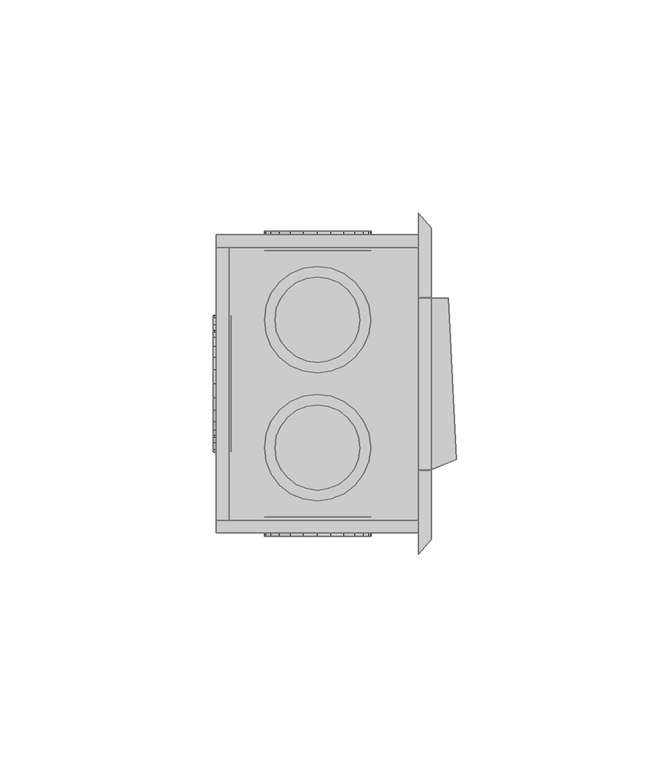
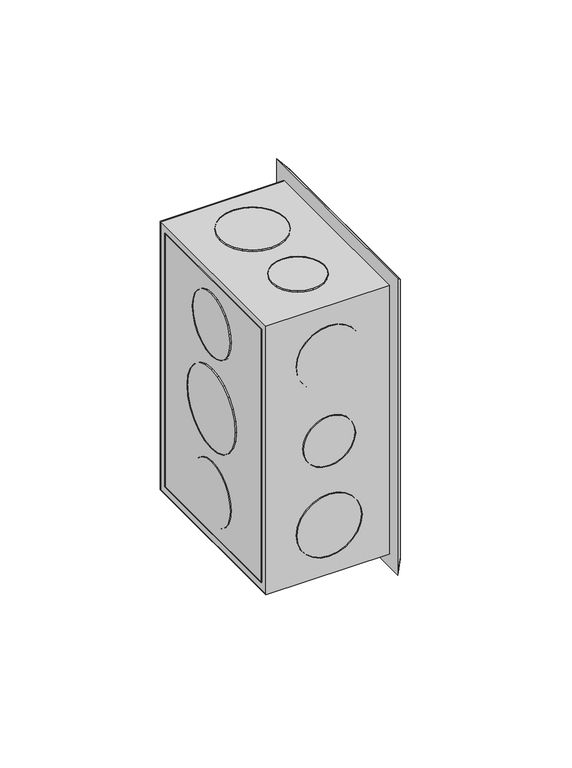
"""IFC4 building model written with IfcOpenShell, lengths in millimetres: proxy geometry,  210927 :  210927."""

from ifc_helpers import new_model, si_unit, origin, place, context, project, spatial, triangles, source, transform, mapped, element, save


def generic_models_ba82d7d4(model_context):
    return source(origin(), model_context, "Body", "Tessellation", [
        triangles([(1323.4000351, 28526.1006592, 1254.3000378), (1323.4000351, 28523.1008423, 1148.7000154), (1323.4000351, 28526.1006592, 1145.6999805), (1323.4000351, 28523.1008423, 1251.2999302), (1323.4000351, 28456.1002808, 1254.3000378), (1323.4000351, 28459.1000977, 1251.2999302), (1323.4000351, 28456.1002808, 1145.6999805), (1323.4000351, 28459.1000977, 1148.7000154), (1275.9000275, 28523.1008423, 1251.2999302), (1275.9000275, 28523.1008423, 1148.7000154), (1275.9000275, 28456.1002808, 1254.3000378), (1275.9000275, 28456.1002808, 1145.6999805), (1275.9000275, 28459.1000977, 1251.2999302), (1275.9000275, 28526.1006592, 1145.6999805), (1275.9000275, 28459.1000977, 1148.7000154), (1275.9000275, 28526.1006592, 1254.3000378), (1278.8999897, 28523.1008423, 1251.2999302), (1278.8999897, 28459.1000977, 1148.7000154), (1278.8999897, 28523.1008423, 1148.7000154), (1278.8999897, 28459.1000977, 1251.2999302), (1279.3999592, 28504.9996216, 1191.9999887), (1279.3999592, 28499.0999817, 1186.0999855), (1279.3999592, 28502.3997803, 1188.6999722), (1279.3999592, 28506.5995239, 1195.8999687), (1279.3999592, 28495.3002136, 1184.5000105), (1279.3999592, 28507.0994934, 1200.0000092), (1279.3999592, 28491.10047, 1183.9999683), (1279.3999592, 28506.5995239, 1204.0999769), (1279.3999592, 28487.0007202, 1184.5000105), (1279.3999592, 28504.9996216, 1208.0000296), (1279.3999592, 28483.1009583, 1186.0999855), (1279.3999592, 28502.3997803, 1211.2999735), (1279.3999592, 28479.8011597, 1188.6999722), (1279.3999592, 28499.0999817, 1213.9000328), (1279.3999592, 28477.2989868, 1191.9999887), (1279.3999592, 28495.3002136, 1215.5000078), (1279.3999592, 28475.6990845, 1195.8999687), (1279.3999592, 28491.10047, 1215.9999773), (1279.3999592, 28475.0991211, 1200.0000092), (1279.3999592, 28487.0007202, 1215.5000078), (1279.3999592, 28475.6990845, 1204.0999769), (1279.3999592, 28483.1009583, 1213.9000328), (1279.3999592, 28477.2989868, 1208.0000296), (1279.3999592, 28479.8011597, 1211.2999735), (1275.2000702, 28487.0007202, 1184.5000105), (1275.2000702, 28491.10047, 1183.9999683), (1275.2000702, 28495.3002136, 1184.5000105), (1275.2000702, 28499.0999817, 1186.0999855), (1275.2000702, 28502.3997803, 1188.6999722), (1275.2000702, 28504.9996216, 1191.9999887), (1275.2000702, 28506.5995239, 1195.8999687), (1275.2000702, 28507.0994934, 1200.0000092), (1275.2000702, 28506.5995239, 1204.0999769), (1275.2000702, 28504.9996216, 1208.0000296), (1275.2000702, 28502.3997803, 1211.2999735), (1275.2000702, 28499.0999817, 1213.9000328), (1275.2000702, 28495.3002136, 1215.5000078), (1275.2000702, 28491.10047, 1215.9999773), (1275.2000702, 28487.0007202, 1215.5000078), (1275.2000702, 28483.1009583, 1213.9000328), (1275.2000702, 28479.8011597, 1211.2999735), (1275.2000702, 28477.2989868, 1208.0000296), (1275.2000702, 28475.6990845, 1204.0999769), (1275.2000702, 28475.0991211, 1200.0000092), (1275.2000702, 28475.6990845, 1195.8999687), (1275.2000702, 28477.2989868, 1191.9999887), (1275.2000702, 28479.8011597, 1188.6999722), (1275.2000702, 28483.1009583, 1186.0999855), (1279.3999592, 28501.9998047, 1227.8000565), (1279.3999592, 28497.4000854, 1223.2000465), (1279.3999592, 28499.9999268, 1225.2000698), (1279.3999592, 28503.1997314, 1230.8000187), (1279.3999592, 28494.4002686, 1221.8999805), (1279.3999592, 28503.599707, 1233.9999687), (1279.3999592, 28491.10047, 1221.500005), (1279.3999592, 28503.1997314, 1237.2000641), (1279.3999592, 28487.9006653, 1221.8999805), (1279.3999592, 28501.9998047, 1240.3000202), (1279.3999592, 28484.9008484, 1223.2000465), (1279.3999592, 28499.9999268, 1242.800013), (1279.3999592, 28482.3010071, 1225.2000698), (1279.3999592, 28480.3011292, 1227.8000565), (1279.3999592, 28497.4000854, 1244.8000362), (1279.3999592, 28494.4002686, 1246.0999569), (1279.3999592, 28479.098877, 1230.8000187), (1279.3999592, 28491.10047, 1246.4999325), (1279.3999592, 28478.5989075, 1233.9999687), (1279.3999592, 28487.9006653, 1246.0999569), (1279.3999592, 28479.098877, 1237.2000641), (1279.3999592, 28480.3011292, 1240.3000202), (1279.3999592, 28484.9008484, 1244.8000362), (1279.3999592, 28482.3010071, 1242.800013), (1275.2000702, 28479.098877, 1230.8000187), (1275.2000702, 28480.3011292, 1227.8000565), (1275.2000702, 28482.3010071, 1225.2000698), (1275.2000702, 28484.9008484, 1223.2000465), (1275.2000702, 28487.9006653, 1221.8999805), (1275.2000702, 28491.10047, 1221.500005), (1275.2000702, 28494.4002686, 1221.8999805), (1275.2000702, 28497.4000854, 1223.2000465), (1275.2000702, 28499.9999268, 1225.2000698), (1275.2000702, 28501.9998047, 1227.8000565), (1275.2000702, 28503.1997314, 1230.8000187), (1275.2000702, 28503.599707, 1233.9999687), (1275.2000702, 28503.1997314, 1237.2000641), (1275.2000702, 28501.9998047, 1240.3000202), (1275.2000702, 28499.9999268, 1242.800013), (1275.2000702, 28497.4000854, 1244.8000362), (1275.2000702, 28494.4002686, 1246.0999569), (1275.2000702, 28491.10047, 1246.4999325), (1275.2000702, 28487.9006653, 1246.0999569), (1275.2000702, 28484.9008484, 1244.8000362), (1275.2000702, 28482.3010071, 1242.800013), (1275.2000702, 28480.3011292, 1240.3000202), (1275.2000702, 28479.098877, 1237.2000641), (1275.2000702, 28478.5989075, 1233.9999687), (1275.2000702, 28497.4000854, 1155.1999821), (1275.2000702, 28501.9998047, 1159.6999981), (1275.2000702, 28499.9999268, 1157.2000053), (1275.2000702, 28494.4002686, 1153.8999887), (1275.2000702, 28503.1997314, 1162.8000269), (1275.2000702, 28491.10047, 1153.5000132), (1275.2000702, 28503.599707, 1165.9999769), (1275.2000702, 28487.9006653, 1153.8999887), (1275.2000702, 28503.1997314, 1169.1999996), (1275.2000702, 28484.9008484, 1155.1999821), (1275.2000702, 28501.9998047, 1172.2000345), (1275.2000702, 28482.3010071, 1157.2000053), (1275.2000702, 28499.9999268, 1174.8000212), (1275.2000702, 28480.3011292, 1159.6999981), (1275.2000702, 28497.4000854, 1176.7999718), (1275.2000702, 28479.098877, 1162.8000269), (1275.2000702, 28494.4002686, 1178.0999651), (1275.2000702, 28491.10047, 1178.5000134), (1275.2000702, 28478.5989075, 1165.9999769), (1275.2000702, 28479.098877, 1169.1999996), (1275.2000702, 28487.9006653, 1178.0999651), (1275.2000702, 28480.3011292, 1172.2000345), (1275.2000702, 28484.9008484, 1176.7999718), (1275.2000702, 28482.3010071, 1174.8000212), (1279.3999592, 28494.4002686, 1178.0999651), (1279.3999592, 28491.10047, 1178.5000134), (1279.3999592, 28497.4000854, 1176.7999718), (1279.3999592, 28499.9999268, 1174.8000212), (1279.3999592, 28501.9998047, 1172.2000345), (1279.3999592, 28503.1997314, 1169.1999996), (1279.3999592, 28503.599707, 1165.9999769), (1279.3999592, 28503.1997314, 1162.8000269), (1279.3999592, 28501.9998047, 1159.6999981), (1279.3999592, 28499.9999268, 1157.2000053), (1279.3999592, 28497.4000854, 1155.1999821), (1279.3999592, 28494.4002686, 1153.8999887), (1279.3999592, 28491.10047, 1153.5000132), (1279.3999592, 28487.9006653, 1153.8999887), (1279.3999592, 28484.9008484, 1155.1999821), (1279.3999592, 28482.3010071, 1157.2000053), (1279.3999592, 28480.3011292, 1159.6999981), (1279.3999592, 28479.098877, 1162.8000269), (1279.3999592, 28478.5989075, 1165.9999769), (1279.3999592, 28479.098877, 1169.1999996), (1279.3999592, 28480.3011292, 1172.2000345), (1279.3999592, 28482.3010071, 1174.8000212), (1279.3999592, 28484.9008484, 1176.7999718), (1279.3999592, 28487.9006653, 1178.0999651), (1294.7000427, 28522.3008911, 1191.3000315), (1290.9999779, 28522.3008911, 1195.0000237), (1292.6000256, 28522.3008911, 1192.9000065), (1290.0000389, 28522.3008911, 1197.4000225), (1297.1000416, 28522.3008911, 1190.3000198), (1289.7000572, 28522.3008911, 1200.0000092), (1299.7000282, 28522.3008911, 1189.9999655), (1302.200021, 28522.3008911, 1190.3000198), (1290.0000389, 28522.3008911, 1202.5999958), (1290.9999779, 28522.3008911, 1204.9999947), (1304.7000137, 28522.3008911, 1191.3000315), (1292.6000256, 28522.3008911, 1207.1000118), (1306.700037, 28522.3008911, 1192.9000065), (1308.2999393, 28522.3008911, 1195.0000237), (1294.7000427, 28522.3008911, 1208.6999868), (1309.3000237, 28522.3008911, 1197.4000225), (1297.1000416, 28522.3008911, 1209.6999985), (1309.6999992, 28522.3008911, 1200.0000092), (1299.7000282, 28522.3008911, 1209.9999802), (1309.3000237, 28522.3008911, 1202.5999958), (1302.200021, 28522.3008911, 1209.6999985), (1304.7000137, 28522.3008911, 1208.6999868), (1308.2999393, 28522.3008911, 1204.9999947), (1306.700037, 28522.3008911, 1207.1000118), (1299.7000282, 28526.9006104, 1189.9999655), (1297.1000416, 28526.9006104, 1190.3000198), (1302.200021, 28526.9006104, 1190.3000198), (1304.7000137, 28526.9006104, 1191.3000315), (1306.700037, 28526.9006104, 1192.9000065), (1308.2999393, 28526.9006104, 1195.0000237), (1309.3000237, 28526.9006104, 1197.4000225), (1309.6999992, 28526.9006104, 1200.0000092), (1309.3000237, 28526.9006104, 1202.5999958), (1308.2999393, 28526.9006104, 1204.9999947), (1306.700037, 28526.9006104, 1207.1000118), (1304.7000137, 28526.9006104, 1208.6999868), (1302.200021, 28526.9006104, 1209.6999985), (1299.7000282, 28526.9006104, 1209.9999802), (1297.1000416, 28526.9006104, 1209.6999985), (1294.7000427, 28526.9006104, 1208.6999868), (1292.6000256, 28526.9006104, 1207.1000118), (1290.9999779, 28526.9006104, 1204.9999947), (1290.0000389, 28526.9006104, 1202.5999958), (1289.7000572, 28526.9006104, 1200.0000092), (1290.0000389, 28526.9006104, 1197.4000225), (1290.9999779, 28526.9006104, 1195.0000237), (1292.6000256, 28526.9006104, 1192.9000065), (1294.7000427, 28526.9006104, 1191.3000315), (1293.3999767, 28522.3008911, 1223.2000465), (1288.7999668, 28522.3008911, 1227.8000565), (1290.7999901, 28522.3008911, 1225.2000698), (1296.399939, 28522.3008911, 1221.8999805), (1287.6000401, 28522.3008911, 1230.8000187), (1287.2000645, 28522.3008911, 1233.9999687), (1299.7000282, 28522.3008911, 1221.500005), (1302.8999783, 28522.3008911, 1221.8999805), (1287.6000401, 28522.3008911, 1237.2000641), (1288.7999668, 28522.3008911, 1240.3000202), (1305.8999405, 28522.3008911, 1223.2000465), (1308.5000725, 28522.3008911, 1225.2000698), (1290.7999901, 28522.3008911, 1242.800013), (1310.4999504, 28522.3008911, 1227.8000565), (1293.3999767, 28522.3008911, 1244.8000362), (1311.7000225, 28522.3008911, 1230.8000187), (1296.399939, 28522.3008911, 1246.0999569), (1312.199992, 28522.3008911, 1233.9999687), (1299.7000282, 28522.3008911, 1246.4999325), (1311.7000225, 28522.3008911, 1237.2000641), (1302.8999783, 28522.3008911, 1246.0999569), (1310.4999504, 28522.3008911, 1240.3000202), (1305.8999405, 28522.3008911, 1244.8000362), (1308.5000725, 28522.3008911, 1242.800013), (1299.7000282, 28526.9006104, 1221.500005), (1296.399939, 28526.9006104, 1221.8999805), (1302.8999783, 28526.9006104, 1221.8999805), (1305.8999405, 28526.9006104, 1223.2000465), (1308.5000725, 28526.9006104, 1225.2000698), (1310.4999504, 28526.9006104, 1227.8000565), (1311.7000225, 28526.9006104, 1230.8000187), (1312.199992, 28526.9006104, 1233.9999687), (1311.7000225, 28526.9006104, 1237.2000641), (1310.4999504, 28526.9006104, 1240.3000202), (1308.5000725, 28526.9006104, 1242.800013), (1305.8999405, 28526.9006104, 1244.8000362), (1302.8999783, 28526.9006104, 1246.0999569), (1299.7000282, 28526.9006104, 1246.4999325), (1296.399939, 28526.9006104, 1246.0999569), (1293.3999767, 28526.9006104, 1244.8000362), (1290.7999901, 28526.9006104, 1242.800013), (1288.7999668, 28526.9006104, 1240.3000202), (1287.6000401, 28526.9006104, 1237.2000641), (1287.2000645, 28526.9006104, 1233.9999687), (1287.6000401, 28526.9006104, 1230.8000187), (1288.7999668, 28526.9006104, 1227.8000565), (1290.7999901, 28526.9006104, 1225.2000698), (1293.3999767, 28526.9006104, 1223.2000465), (1288.7999668, 28526.9006104, 1159.6999981), (1293.3999767, 28526.9006104, 1155.1999821), (1290.7999901, 28526.9006104, 1157.2000053), (1287.6000401, 28526.9006104, 1162.8000269), (1296.399939, 28526.9006104, 1153.8999887), (1287.2000645, 28526.9006104, 1165.9999769), (1299.7000282, 28526.9006104, 1153.5000132), (1287.6000401, 28526.9006104, 1169.1999996), (1302.8999783, 28526.9006104, 1153.8999887), (1288.7999668, 28526.9006104, 1172.2000345), (1305.8999405, 28526.9006104, 1155.1999821), (1290.7999901, 28526.9006104, 1174.8000212), (1308.5000725, 28526.9006104, 1157.2000053), (1293.3999767, 28526.9006104, 1176.7999718), (1310.4999504, 28526.9006104, 1159.6999981), (1296.399939, 28526.9006104, 1178.0999651), (1311.7000225, 28526.9006104, 1162.8000269), (1299.7000282, 28526.9006104, 1178.5000134), (1312.199992, 28526.9006104, 1165.9999769), (1302.8999783, 28526.9006104, 1178.0999651), (1311.7000225, 28526.9006104, 1169.1999996), (1305.8999405, 28526.9006104, 1176.7999718), (1310.4999504, 28526.9006104, 1172.2000345), (1308.5000725, 28526.9006104, 1174.8000212), (1296.399939, 28522.3008911, 1178.0999651), (1299.7000282, 28522.3008911, 1178.5000134), (1302.8999783, 28522.3008911, 1178.0999651), (1305.8999405, 28522.3008911, 1176.7999718), (1308.5000725, 28522.3008911, 1174.8000212), (1310.4999504, 28522.3008911, 1172.2000345), (1311.7000225, 28522.3008911, 1169.1999996), (1312.199992, 28522.3008911, 1165.9999769), (1311.7000225, 28522.3008911, 1162.8000269), (1310.4999504, 28522.3008911, 1159.6999981), (1308.5000725, 28522.3008911, 1157.2000053), (1305.8999405, 28522.3008911, 1155.1999821), (1302.8999783, 28522.3008911, 1153.8999887), (1299.7000282, 28522.3008911, 1153.5000132), (1296.399939, 28522.3008911, 1153.8999887), (1293.3999767, 28522.3008911, 1155.1999821), (1290.7999901, 28522.3008911, 1157.2000053), (1288.7999668, 28522.3008911, 1159.6999981), (1287.6000401, 28522.3008911, 1162.8000269), (1287.2000645, 28522.3008911, 1165.9999769), (1287.6000401, 28522.3008911, 1169.1999996), (1288.7999668, 28522.3008911, 1172.2000345), (1290.7999901, 28522.3008911, 1174.8000212), (1293.3999767, 28522.3008911, 1176.7999718), (1290.9999779, 28459.9000488, 1195.0000237), (1294.7000427, 28459.9000488, 1191.3000315), (1292.6000256, 28459.9000488, 1192.9000065), (1290.0000389, 28459.9000488, 1197.4000225), (1297.1000416, 28459.9000488, 1190.3000198), (1289.7000572, 28459.9000488, 1200.0000092), (1299.7000282, 28459.9000488, 1189.9999655), (1290.0000389, 28459.9000488, 1202.5999958), (1302.200021, 28459.9000488, 1190.3000198), (1290.9999779, 28459.9000488, 1204.9999947), (1304.7000137, 28459.9000488, 1191.3000315), (1292.6000256, 28459.9000488, 1207.1000118), (1306.700037, 28459.9000488, 1192.9000065), (1294.7000427, 28459.9000488, 1208.6999868), (1308.2999393, 28459.9000488, 1195.0000237), (1297.1000416, 28459.9000488, 1209.6999985), (1309.3000237, 28459.9000488, 1197.4000225), (1309.6999992, 28459.9000488, 1200.0000092), (1299.7000282, 28459.9000488, 1209.9999802), (1302.200021, 28459.9000488, 1209.6999985), (1309.3000237, 28459.9000488, 1202.5999958), (1304.7000137, 28459.9000488, 1208.6999868), (1308.2999393, 28459.9000488, 1204.9999947), (1306.700037, 28459.9000488, 1207.1000118), (1297.1000416, 28455.3003296, 1209.6999985), (1299.7000282, 28455.3003296, 1209.9999802), (1302.200021, 28455.3003296, 1209.6999985), (1304.7000137, 28455.3003296, 1208.6999868), (1306.700037, 28455.3003296, 1207.1000118), (1308.2999393, 28455.3003296, 1204.9999947), (1309.3000237, 28455.3003296, 1202.5999958), (1309.6999992, 28455.3003296, 1200.0000092), (1309.3000237, 28455.3003296, 1197.4000225), (1308.2999393, 28455.3003296, 1195.0000237), (1306.700037, 28455.3003296, 1192.9000065), (1304.7000137, 28455.3003296, 1191.3000315), (1302.200021, 28455.3003296, 1190.3000198), (1299.7000282, 28455.3003296, 1189.9999655), (1297.1000416, 28455.3003296, 1190.3000198), (1294.7000427, 28455.3003296, 1191.3000315), (1292.6000256, 28455.3003296, 1192.9000065), (1290.9999779, 28455.3003296, 1195.0000237), (1290.0000389, 28455.3003296, 1197.4000225), (1289.7000572, 28455.3003296, 1200.0000092), (1290.0000389, 28455.3003296, 1202.5999958), (1290.9999779, 28455.3003296, 1204.9999947), (1292.6000256, 28455.3003296, 1207.1000118), (1294.7000427, 28455.3003296, 1208.6999868), (1288.7999668, 28459.9000488, 1159.6999981), (1293.3999767, 28459.9000488, 1155.1999821), (1290.7999901, 28459.9000488, 1157.2000053), (1287.6000401, 28459.9000488, 1162.8000269), (1296.399939, 28459.9000488, 1153.8999887), (1287.2000645, 28459.9000488, 1165.9999769), (1299.7000282, 28459.9000488, 1153.5000132), (1287.6000401, 28459.9000488, 1169.1999996), (1302.8999783, 28459.9000488, 1153.8999887), (1288.7999668, 28459.9000488, 1172.2000345), (1305.8999405, 28459.9000488, 1155.1999821), (1290.7999901, 28459.9000488, 1174.8000212), (1308.5000725, 28459.9000488, 1157.2000053), (1293.3999767, 28459.9000488, 1176.7999718), (1310.4999504, 28459.9000488, 1159.6999981), (1296.399939, 28459.9000488, 1178.0999651), (1311.7000225, 28459.9000488, 1162.8000269), (1299.7000282, 28459.9000488, 1178.5000134), (1312.199992, 28459.9000488, 1165.9999769), (1302.8999783, 28459.9000488, 1178.0999651), (1311.7000225, 28459.9000488, 1169.1999996), (1305.8999405, 28459.9000488, 1176.7999718), (1310.4999504, 28459.9000488, 1172.2000345), (1308.5000725, 28459.9000488, 1174.8000212), (1296.399939, 28455.3003296, 1178.0999651), (1299.7000282, 28455.3003296, 1178.5000134), (1302.8999783, 28455.3003296, 1178.0999651), (1305.8999405, 28455.3003296, 1176.7999718), (1308.5000725, 28455.3003296, 1174.8000212), (1310.4999504, 28455.3003296, 1172.2000345), (1311.7000225, 28455.3003296, 1169.1999996), (1312.199992, 28455.3003296, 1165.9999769), (1311.7000225, 28455.3003296, 1162.8000269), (1310.4999504, 28455.3003296, 1159.6999981), (1308.5000725, 28455.3003296, 1157.2000053), (1305.8999405, 28455.3003296, 1155.1999821), (1302.8999783, 28455.3003296, 1153.8999887), (1299.7000282, 28455.3003296, 1153.5000132), (1296.399939, 28455.3003296, 1153.8999887), (1293.3999767, 28455.3003296, 1155.1999821), (1290.7999901, 28455.3003296, 1157.2000053), (1288.7999668, 28455.3003296, 1159.6999981), (1287.6000401, 28455.3003296, 1162.8000269), (1287.2000645, 28455.3003296, 1165.9999769), (1287.6000401, 28455.3003296, 1169.1999996), (1288.7999668, 28455.3003296, 1172.2000345), (1290.7999901, 28455.3003296, 1174.8000212), (1293.3999767, 28455.3003296, 1176.7999718), (1293.3999767, 28455.3003296, 1223.2000465), (1288.7999668, 28455.3003296, 1227.8000565), (1290.7999901, 28455.3003296, 1225.2000698), (1296.399939, 28455.3003296, 1221.8999805), (1287.6000401, 28455.3003296, 1230.8000187), (1287.2000645, 28455.3003296, 1233.9999687), (1299.7000282, 28455.3003296, 1221.500005), (1302.8999783, 28455.3003296, 1221.8999805), (1287.6000401, 28455.3003296, 1237.2000641), (1288.7999668, 28455.3003296, 1240.3000202), (1305.8999405, 28455.3003296, 1223.2000465), (1308.5000725, 28455.3003296, 1225.2000698), (1290.7999901, 28455.3003296, 1242.800013), (1310.4999504, 28455.3003296, 1227.8000565), (1293.3999767, 28455.3003296, 1244.8000362), (1311.7000225, 28455.3003296, 1230.8000187), (1296.399939, 28455.3003296, 1246.0999569), (1312.199992, 28455.3003296, 1233.9999687), (1299.7000282, 28455.3003296, 1246.4999325), (1311.7000225, 28455.3003296, 1237.2000641), (1302.8999783, 28455.3003296, 1246.0999569), (1310.4999504, 28455.3003296, 1240.3000202), (1305.8999405, 28455.3003296, 1244.8000362), (1308.5000725, 28455.3003296, 1242.800013), (1299.7000282, 28459.9000488, 1221.500005), (1296.399939, 28459.9000488, 1221.8999805), (1302.8999783, 28459.9000488, 1221.8999805), (1305.8999405, 28459.9000488, 1223.2000465), (1308.5000725, 28459.9000488, 1225.2000698), (1310.4999504, 28459.9000488, 1227.8000565), (1311.7000225, 28459.9000488, 1230.8000187), (1312.199992, 28459.9000488, 1233.9999687), (1311.7000225, 28459.9000488, 1237.2000641), (1310.4999504, 28459.9000488, 1240.3000202), (1308.5000725, 28459.9000488, 1242.800013), (1305.8999405, 28459.9000488, 1244.8000362), (1302.8999783, 28459.9000488, 1246.0999569), (1299.7000282, 28459.9000488, 1246.4999325), (1296.399939, 28459.9000488, 1246.0999569), (1293.3999767, 28459.9000488, 1244.8000362), (1290.7999901, 28459.9000488, 1242.800013), (1288.7999668, 28459.9000488, 1240.3000202), (1287.6000401, 28459.9000488, 1237.2000641), (1287.2000645, 28459.9000488, 1233.9999687), (1287.6000401, 28459.9000488, 1230.8000187), (1288.7999668, 28459.9000488, 1227.8000565), (1290.7999901, 28459.9000488, 1225.2000698), (1293.3999767, 28459.9000488, 1223.2000465), (1293.3999767, 28516.9988892, 1250.9999485), (1288.7999668, 28512.3991699, 1250.9999485), (1290.7999901, 28514.9990112, 1250.9999485), (1296.399939, 28518.2011414, 1250.9999485), (1287.6000401, 28509.399353, 1250.9999485), (1287.2000645, 28506.0995544, 1250.9999485), (1299.7000282, 28518.6011169, 1250.9999485), (1302.8999783, 28518.2011414, 1250.9999485), (1287.6000401, 28502.8997498, 1250.9999485), (1288.7999668, 28499.8999329, 1250.9999485), (1305.8999405, 28516.9988892, 1250.9999485), (1308.5000725, 28514.9990112, 1250.9999485), (1290.7999901, 28497.3000916, 1250.9999485), (1293.3999767, 28495.3002136, 1250.9999485), (1310.4999504, 28512.3991699, 1250.9999485), (1311.7000225, 28509.399353, 1250.9999485), (1296.399939, 28494.1002869, 1250.9999485), (1312.199992, 28506.0995544, 1250.9999485), (1299.7000282, 28493.6003174, 1250.9999485), (1311.7000225, 28502.8997498, 1250.9999485), (1302.8999783, 28494.1002869, 1250.9999485), (1305.8999405, 28495.3002136, 1250.9999485), (1310.4999504, 28499.8999329, 1250.9999485), (1308.5000725, 28497.3000916, 1250.9999485), (1287.2000645, 28506.0995544, 1255.1999828), (1287.6000401, 28502.8997498, 1255.1999828), (1287.6000401, 28509.399353, 1255.1999828), (1288.7999668, 28512.3991699, 1255.1999828), (1290.7999901, 28514.9990112, 1255.1999828), (1293.3999767, 28516.9988892, 1255.1999828), (1296.399939, 28518.2011414, 1255.1999828), (1299.7000282, 28518.6011169, 1255.1999828), (1302.8999783, 28518.2011414, 1255.1999828), (1305.8999405, 28516.9988892, 1255.1999828), (1308.5000725, 28514.9990112, 1255.1999828), (1310.4999504, 28512.3991699, 1255.1999828), (1311.7000225, 28509.399353, 1255.1999828), (1312.199992, 28506.0995544, 1255.1999828), (1311.7000225, 28502.8997498, 1255.1999828), (1310.4999504, 28499.8999329, 1255.1999828), (1308.5000725, 28497.3000916, 1255.1999828), (1305.8999405, 28495.3002136, 1255.1999828), (1302.8999783, 28494.1002869, 1255.1999828), (1299.7000282, 28493.6003174, 1255.1999828), (1296.399939, 28494.1002869, 1255.1999828), (1293.3999767, 28495.3002136, 1255.1999828), (1290.7999901, 28497.3000916, 1255.1999828), (1288.7999668, 28499.8999329, 1255.1999828), (1294.7000427, 28484.8008545, 1250.9999485), (1290.9999779, 28481.1010803, 1250.9999485), (1292.6000256, 28483.2009521, 1250.9999485), (1290.0000389, 28478.6989014, 1250.9999485), (1297.1000416, 28485.8007935, 1250.9999485), (1289.7000572, 28476.0990601, 1250.9999485), (1299.7000282, 28486.1007751, 1250.9999485), (1302.200021, 28485.8007935, 1250.9999485), (1290.0000389, 28473.4992187, 1250.9999485), (1290.9999779, 28471.0993652, 1250.9999485), (1304.7000137, 28484.8008545, 1250.9999485), (1292.6000256, 28469.0994873, 1250.9999485), (1306.700037, 28483.2009521, 1250.9999485), (1308.2999393, 28481.1010803, 1250.9999485), (1294.7000427, 28467.499585, 1250.9999485), (1297.1000416, 28466.499646, 1250.9999485), (1309.3000237, 28478.6989014, 1250.9999485), (1309.6999992, 28476.0990601, 1250.9999485), (1299.7000282, 28466.0996704, 1250.9999485), (1309.3000237, 28473.4992187, 1250.9999485), (1302.200021, 28466.499646, 1250.9999485), (1308.2999393, 28471.0993652, 1250.9999485), (1304.7000137, 28467.499585, 1250.9999485), (1306.700037, 28469.0994873, 1250.9999485), (1290.0000389, 28473.4992187, 1255.1999828), (1290.9999779, 28471.0993652, 1255.1999828), (1289.7000572, 28476.0990601, 1255.1999828), (1290.0000389, 28478.6989014, 1255.1999828), (1290.9999779, 28481.1010803, 1255.1999828), (1292.6000256, 28483.2009521, 1255.1999828), (1294.7000427, 28484.8008545, 1255.1999828), (1297.1000416, 28485.8007935, 1255.1999828), (1299.7000282, 28486.1007751, 1255.1999828), (1302.200021, 28485.8007935, 1255.1999828), (1304.7000137, 28484.8008545, 1255.1999828), (1306.700037, 28483.2009521, 1255.1999828), (1308.2999393, 28481.1010803, 1255.1999828), (1309.3000237, 28478.6989014, 1255.1999828), (1309.6999992, 28476.0990601, 1255.1999828), (1309.3000237, 28473.4992187, 1255.1999828), (1308.2999393, 28471.0993652, 1255.1999828), (1306.700037, 28469.0994873, 1255.1999828), (1304.7000137, 28467.499585, 1255.1999828), (1302.200021, 28466.499646, 1255.1999828), (1299.7000282, 28466.0996704, 1255.1999828), (1297.1000416, 28466.499646, 1255.1999828), (1294.7000427, 28467.499585, 1255.1999828), (1292.6000256, 28469.0994873, 1255.1999828), (1294.7000427, 28514.7990234, 1144.8000355), (1290.9999779, 28511.0992493, 1144.8000355), (1292.6000256, 28513.1991211, 1144.8000355), (1290.0000389, 28508.6993958, 1144.8000355), (1297.1000416, 28515.7989624, 1144.8000355), (1289.7000572, 28506.0995544, 1144.8000355), (1299.7000282, 28516.0989441, 1144.8000355), (1302.200021, 28515.7989624, 1144.8000355), (1290.0000389, 28503.4997131, 1144.8000355), (1290.9999779, 28501.0998596, 1144.8000355), (1304.7000137, 28514.7990234, 1144.8000355), (1292.6000256, 28499.0999817, 1144.8000355), (1306.700037, 28513.1991211, 1144.8000355), (1308.2999393, 28511.0992493, 1144.8000355), (1294.7000427, 28497.5000793, 1144.8000355), (1297.1000416, 28496.5001404, 1144.8000355), (1309.3000237, 28508.6993958, 1144.8000355), (1309.6999992, 28506.0995544, 1144.8000355), (1299.7000282, 28496.1001648, 1144.8000355), (1309.3000237, 28503.4997131, 1144.8000355), (1302.200021, 28496.5001404, 1144.8000355), (1308.2999393, 28501.0998596, 1144.8000355), (1304.7000137, 28497.5000793, 1144.8000355), (1306.700037, 28499.0999817, 1144.8000355), (1290.0000389, 28508.6993958, 1149.099991), (1289.7000572, 28506.0995544, 1149.099991), (1290.9999779, 28511.0992493, 1149.099991), (1292.6000256, 28513.1991211, 1149.099991), (1294.7000427, 28514.7990234, 1149.099991), (1297.1000416, 28515.7989624, 1149.099991), (1299.7000282, 28516.0989441, 1149.099991), (1302.200021, 28515.7989624, 1149.099991), (1304.7000137, 28514.7990234, 1149.099991), (1306.700037, 28513.1991211, 1149.099991), (1308.2999393, 28511.0992493, 1149.099991), (1309.3000237, 28508.6993958, 1149.099991), (1309.6999992, 28506.0995544, 1149.099991), (1309.3000237, 28503.4997131, 1149.099991), (1308.2999393, 28501.0998596, 1149.099991), (1306.700037, 28499.0999817, 1149.099991), (1304.7000137, 28497.5000793, 1149.099991), (1302.200021, 28496.5001404, 1149.099991), (1299.7000282, 28496.1001648, 1149.099991), (1297.1000416, 28496.5001404, 1149.099991), (1294.7000427, 28497.5000793, 1149.099991), (1292.6000256, 28499.0999817, 1149.099991), (1290.9999779, 28501.0998596, 1149.099991), (1290.0000389, 28503.4997131, 1149.099991), (1293.3999767, 28487.0007202, 1144.8000355), (1288.7999668, 28482.401001, 1144.8000355), (1290.7999901, 28485.0008423, 1144.8000355), (1296.399939, 28488.200647, 1144.8000355), (1287.6000401, 28479.3988586, 1144.8000355), (1287.2000645, 28476.0990601, 1144.8000355), (1299.7000282, 28488.6006226, 1144.8000355), (1302.8999783, 28488.200647, 1144.8000355), (1287.6000401, 28472.8992554, 1144.8000355), (1288.7999668, 28469.8994385, 1144.8000355), (1305.8999405, 28487.0007202, 1144.8000355), (1308.5000725, 28485.0008423, 1144.8000355), (1290.7999901, 28467.2995972, 1144.8000355), (1293.3999767, 28465.2997192, 1144.8000355), (1310.4999504, 28482.401001, 1144.8000355), (1311.7000225, 28479.3988586, 1144.8000355), (1296.399939, 28464.0997925, 1144.8000355), (1312.199992, 28476.0990601, 1144.8000355), (1299.7000282, 28463.599823, 1144.8000355), (1311.7000225, 28472.8992554, 1144.8000355), (1302.8999783, 28464.0997925, 1144.8000355), (1305.8999405, 28465.2997192, 1144.8000355), (1310.4999504, 28469.8994385, 1144.8000355), (1308.5000725, 28467.2995972, 1144.8000355), (1287.6000401, 28472.8992554, 1149.099991), (1288.7999668, 28469.8994385, 1149.099991), (1287.2000645, 28476.0990601, 1149.099991), (1287.6000401, 28479.3988586, 1149.099991), (1288.7999668, 28482.401001, 1149.099991), (1290.7999901, 28485.0008423, 1149.099991), (1293.3999767, 28487.0007202, 1149.099991), (1296.399939, 28488.200647, 1149.099991), (1299.7000282, 28488.6006226, 1149.099991), (1302.8999783, 28488.200647, 1149.099991), (1305.8999405, 28487.0007202, 1149.099991), (1308.5000725, 28485.0008423, 1149.099991), (1310.4999504, 28482.401001, 1149.099991), (1311.7000225, 28479.3988586, 1149.099991), (1312.199992, 28476.0990601, 1149.099991), (1311.7000225, 28472.8992554, 1149.099991), (1310.4999504, 28469.8994385, 1149.099991), (1308.5000725, 28467.2995972, 1149.099991), (1305.8999405, 28465.2997192, 1149.099991), (1302.8999783, 28464.0997925, 1149.099991), (1299.7000282, 28463.599823, 1149.099991), (1296.399939, 28464.0997925, 1149.099991), (1293.3999767, 28465.2997192, 1149.099991), (1290.7999901, 28467.2995972, 1149.099991), (1323.4000351, 28451.1005859, 1139.9999651), (1323.4000351, 28511.2992371, 1188.2999966), (1323.4000351, 28531.100354, 1139.9999651), (1323.4000351, 28470.8993774, 1188.2999966), (1323.4000351, 28451.1005859, 1259.9999805), (1323.4000351, 28470.8993774, 1211.7000217), (1323.4000351, 28531.100354, 1259.9999805), (1323.4000351, 28511.2992371, 1211.7000217), (1326.3999973, 28470.8993774, 1188.2999966), (1326.3999973, 28470.8993774, 1211.7000217), (1326.3999973, 28511.2992371, 1188.2999966), (1326.3999973, 28511.2992371, 1211.7000217), (1326.3999973, 28527.6005676, 1143.4999695), (1326.3999973, 28527.6005676, 1256.5000488), (1326.3999973, 28454.6003723, 1143.4999695), (1326.3999973, 28454.6003723, 1256.5000488), (1330.4000439, 28511.1992432, 1188.1000088), (1323.4000351, 28470.7993835, 1188.1000088), (1323.4000351, 28511.1992432, 1188.1000088), (1332.2999279, 28473.3992249, 1188.1000088), (1325.9000278, 28470.7993835, 1188.1000088), (1323.4000351, 28511.1992432, 1211.500034), (1323.4000351, 28470.7993835, 1211.500034), (1330.4000439, 28511.1992432, 1211.500034), (1332.2999279, 28473.3992249, 1211.500034), (1325.9000278, 28470.7993835, 1211.500034)], [[1, 2, 3], [2, 1, 4], [5, 4, 1], [4, 5, 6], [3, 2, 7], [7, 2, 8], [7, 8, 6], [7, 6, 5], [2, 9, 10], [9, 2, 4], [7, 11, 12], [11, 7, 5], [4, 13, 9], [13, 4, 6], [3, 12, 14], [12, 3, 7], [13, 8, 15], [8, 13, 6], [16, 3, 14], [3, 16, 1], [15, 2, 10], [2, 15, 8], [11, 1, 16], [1, 11, 5], [12, 10, 14], [10, 12, 15], [11, 15, 12], [15, 11, 13], [14, 10, 16], [16, 10, 9], [16, 9, 13], [16, 13, 11], [17, 18, 19], [18, 17, 20], [18, 13, 15], [13, 18, 20], [19, 15, 10], [15, 19, 18], [9, 19, 10], [19, 9, 17], [13, 17, 9], [17, 13, 20], [15, 9, 10], [9, 15, 13], [21, 22, 23], [22, 21, 24], [25, 22, 24], [25, 24, 26], [27, 25, 26], [27, 26, 28], [29, 27, 28], [29, 28, 30], [31, 29, 30], [31, 30, 32], [31, 32, 33], [33, 32, 34], [33, 34, 35], [35, 34, 36], [35, 36, 37], [37, 36, 38], [37, 38, 39], [39, 38, 40], [39, 40, 41], [41, 40, 42], [41, 42, 43], [43, 42, 44], [27, 45, 46], [45, 27, 29], [25, 46, 47], [46, 25, 27], [22, 47, 48], [47, 22, 25], [23, 48, 49], [48, 23, 22], [50, 23, 49], [23, 50, 21], [51, 21, 50], [21, 51, 24], [52, 24, 51], [24, 52, 26], [53, 26, 52], [26, 53, 28], [54, 28, 53], [28, 54, 30], [55, 30, 54], [30, 55, 32], [56, 32, 55], [32, 56, 34], [57, 34, 56], [34, 57, 36], [58, 36, 57], [36, 58, 38], [59, 38, 58], [38, 59, 40], [60, 40, 59], [40, 60, 42], [61, 42, 60], [42, 61, 44], [43, 61, 62], [61, 43, 44], [41, 62, 63], [62, 41, 43], [39, 63, 64], [63, 39, 41], [37, 64, 65], [64, 37, 39], [35, 65, 66], [65, 35, 37], [33, 66, 67], [66, 33, 35], [31, 67, 68], [67, 31, 33], [29, 68, 45], [68, 29, 31], [48, 50, 49], [50, 48, 47], [51, 50, 47], [51, 47, 46], [52, 51, 46], [52, 46, 45], [53, 52, 45], [53, 45, 68], [54, 53, 68], [54, 68, 67], [54, 67, 55], [55, 67, 66], [55, 66, 56], [56, 66, 65], [56, 65, 57], [57, 65, 64], [57, 64, 58], [58, 64, 63], [58, 63, 59], [59, 63, 62], [59, 62, 60], [60, 62, 61], [69, 70, 71], [70, 69, 72], [73, 70, 72], [73, 72, 74], [75, 73, 74], [75, 74, 76], [77, 75, 76], [77, 76, 78], [79, 77, 78], [79, 78, 80], [81, 79, 80], [81, 80, 82], [82, 80, 83], [82, 83, 84], [82, 84, 85], [85, 84, 86], [85, 86, 87], [87, 86, 88], [87, 88, 89], [89, 88, 90], [90, 88, 91], [90, 91, 92], [82, 93, 94], [93, 82, 85], [81, 94, 95], [94, 81, 82], [79, 95, 96], [95, 79, 81], [77, 96, 97], [96, 77, 79], [75, 97, 98], [97, 75, 77], [73, 98, 99], [98, 73, 75], [70, 99, 100], [99, 70, 73], [71, 100, 101], [100, 71, 70], [102, 71, 101], [71, 102, 69], [103, 69, 102], [69, 103, 72], [104, 72, 103], [72, 104, 74], [105, 74, 104], [74, 105, 76], [106, 76, 105], [76, 106, 78], [107, 78, 106], [78, 107, 80], [108, 80, 107], [80, 108, 83], [109, 83, 108], [83, 109, 84], [110, 84, 109], [84, 110, 86], [111, 86, 110], [86, 111, 88], [112, 88, 111], [88, 112, 91], [113, 91, 112], [91, 113, 92], [90, 113, 114], [113, 90, 92], [89, 114, 115], [114, 89, 90], [87, 115, 116], [115, 87, 89], [85, 116, 93], [116, 85, 87], [100, 102, 101], [102, 100, 99], [103, 102, 99], [103, 99, 98], [104, 103, 98], [104, 98, 97], [105, 104, 97], [106, 105, 97], [106, 97, 96], [106, 96, 95], [106, 95, 107], [107, 95, 94], [107, 94, 108], [108, 94, 93], [108, 93, 109], [109, 93, 116], [109, 116, 110], [110, 116, 115], [110, 115, 111], [111, 115, 114], [111, 114, 112], [112, 114, 113], [117, 118, 119], [118, 117, 120], [121, 118, 120], [121, 120, 122], [123, 121, 122], [123, 122, 124], [125, 123, 124], [125, 124, 126], [127, 125, 126], [127, 126, 128], [127, 128, 129], [129, 128, 130], [129, 130, 131], [131, 130, 132], [131, 132, 133], [133, 132, 134], [134, 132, 135], [134, 135, 136], [134, 136, 137], [137, 136, 138], [137, 138, 139], [139, 138, 140], [134, 141, 133], [141, 134, 142], [133, 143, 131], [143, 133, 141], [131, 144, 129], [144, 131, 143], [129, 145, 127], [145, 129, 144], [127, 146, 125], [146, 127, 145], [125, 147, 123], [147, 125, 146], [123, 148, 121], [148, 123, 147], [121, 149, 118], [149, 121, 148], [118, 150, 119], [150, 118, 149], [150, 117, 119], [117, 150, 151], [151, 120, 117], [120, 151, 152], [152, 122, 120], [122, 152, 153], [153, 124, 122], [124, 153, 154], [154, 126, 124], [126, 154, 155], [155, 128, 126], [128, 155, 156], [156, 130, 128], [130, 156, 157], [157, 132, 130], [132, 157, 158], [158, 135, 132], [135, 158, 159], [159, 136, 135], [136, 159, 160], [160, 138, 136], [138, 160, 161], [161, 140, 138], [140, 161, 162], [140, 163, 139], [163, 140, 162], [139, 164, 137], [164, 139, 163], [137, 142, 134], [142, 137, 164], [149, 151, 150], [151, 149, 148], [152, 151, 148], [153, 152, 148], [153, 148, 147], [153, 147, 146], [154, 153, 146], [154, 146, 145], [155, 154, 145], [155, 145, 144], [156, 155, 144], [156, 144, 157], [157, 144, 143], [157, 143, 141], [157, 141, 158], [158, 141, 142], [158, 142, 159], [159, 142, 164], [159, 164, 160], [160, 164, 163], [160, 163, 161], [161, 163, 162], [165, 166, 167], [168, 166, 165], [168, 165, 169], [170, 168, 169], [170, 169, 171], [170, 171, 172], [173, 170, 172], [174, 173, 172], [174, 172, 175], [176, 174, 175], [176, 175, 177], [176, 177, 178], [176, 178, 179], [179, 178, 180], [179, 180, 181], [181, 180, 182], [181, 182, 183], [183, 182, 184], [183, 184, 185], [185, 184, 186], [186, 184, 187], [186, 187, 188], [189, 169, 190], [169, 189, 171], [191, 171, 189], [171, 191, 172], [192, 172, 191], [172, 192, 175], [193, 175, 192], [175, 193, 177], [194, 177, 193], [177, 194, 178], [195, 178, 194], [178, 195, 180], [196, 180, 195], [180, 196, 182], [197, 182, 196], [182, 197, 184], [198, 184, 197], [184, 198, 187], [199, 187, 198], [187, 199, 188], [186, 199, 200], [199, 186, 188], [185, 200, 201], [200, 185, 186], [183, 201, 202], [201, 183, 185], [181, 202, 203], [202, 181, 183], [179, 203, 204], [203, 179, 181], [176, 204, 205], [204, 176, 179], [174, 205, 206], [205, 174, 176], [173, 206, 207], [206, 173, 174], [170, 207, 208], [207, 170, 173], [168, 208, 209], [208, 168, 170], [166, 209, 210], [209, 166, 168], [167, 210, 211], [210, 167, 166], [212, 167, 211], [167, 212, 165], [190, 165, 212], [165, 190, 169], [210, 212, 211], [212, 210, 209], [190, 212, 209], [190, 209, 208], [189, 190, 208], [189, 208, 207], [191, 189, 207], [191, 207, 206], [192, 191, 206], [192, 206, 205], [192, 205, 193], [193, 205, 204], [193, 204, 194], [194, 204, 203], [194, 203, 195], [195, 203, 196], [196, 203, 202], [196, 202, 201], [196, 201, 197], [197, 201, 200], [197, 200, 198], [198, 200, 199], [213, 214, 215], [214, 213, 216], [217, 214, 216], [218, 217, 216], [218, 216, 219], [218, 219, 220], [221, 218, 220], [222, 221, 220], [222, 220, 223], [222, 223, 224], [222, 224, 225], [225, 224, 226], [225, 226, 227], [227, 226, 228], [227, 228, 229], [229, 228, 230], [229, 230, 231], [231, 230, 232], [231, 232, 233], [233, 232, 234], [233, 234, 235], [235, 234, 236], [237, 216, 238], [216, 237, 219], [239, 219, 237], [219, 239, 220], [240, 220, 239], [220, 240, 223], [241, 223, 240], [223, 241, 224], [242, 224, 241], [224, 242, 226], [243, 226, 242], [226, 243, 228], [244, 228, 243], [228, 244, 230], [245, 230, 244], [230, 245, 232], [246, 232, 245], [232, 246, 234], [247, 234, 246], [234, 247, 236], [235, 247, 248], [247, 235, 236], [233, 248, 249], [248, 233, 235], [231, 249, 250], [249, 231, 233], [229, 250, 251], [250, 229, 231], [227, 251, 252], [251, 227, 229], [225, 252, 253], [252, 225, 227], [222, 253, 254], [253, 222, 225], [221, 254, 255], [254, 221, 222], [218, 255, 256], [255, 218, 221], [217, 256, 257], [256, 217, 218], [214, 257, 258], [257, 214, 217], [215, 258, 259], [258, 215, 214], [260, 215, 259], [215, 260, 213], [238, 213, 260], [213, 238, 216], [258, 260, 259], [260, 258, 257], [238, 260, 257], [238, 257, 256], [237, 238, 256], [237, 256, 255], [239, 237, 255], [239, 255, 254], [240, 239, 254], [240, 254, 253], [241, 240, 253], [241, 253, 252], [241, 252, 242], [242, 252, 251], [242, 251, 243], [243, 251, 244], [244, 251, 250], [244, 250, 249], [244, 249, 245], [245, 249, 246], [246, 249, 248], [246, 248, 247], [261, 262, 263], [262, 261, 264], [265, 262, 264], [265, 264, 266], [267, 265, 266], [267, 266, 268], [269, 267, 268], [269, 268, 270], [271, 269, 270], [271, 270, 272], [273, 271, 272], [273, 272, 274], [273, 274, 275], [275, 274, 276], [275, 276, 277], [277, 276, 278], [277, 278, 279], [279, 278, 280], [279, 280, 281], [281, 280, 282], [281, 282, 283], [283, 282, 284], [285, 278, 276], [278, 285, 286], [286, 280, 278], [280, 286, 287], [287, 282, 280], [282, 287, 288], [288, 284, 282], [284, 288, 289], [284, 290, 283], [290, 284, 289], [283, 291, 281], [291, 283, 290], [281, 292, 279], [292, 281, 291], [279, 293, 277], [293, 279, 292], [277, 294, 275], [294, 277, 293], [275, 295, 273], [295, 275, 294], [273, 296, 271], [296, 273, 295], [271, 297, 269], [297, 271, 296], [269, 298, 267], [298, 269, 297], [267, 299, 265], [299, 267, 298], [265, 300, 262], [300, 265, 299], [262, 301, 263], [301, 262, 300], [301, 261, 263], [261, 301, 302], [302, 264, 261], [264, 302, 303], [303, 266, 264], [266, 303, 304], [304, 268, 266], [268, 304, 305], [305, 270, 268], [270, 305, 306], [306, 272, 270], [272, 306, 307], [307, 274, 272], [274, 307, 308], [308, 276, 274], [276, 308, 285], [300, 302, 301], [302, 300, 299], [303, 302, 299], [303, 299, 298], [304, 303, 298], [304, 298, 297], [305, 304, 297], [305, 297, 296], [306, 305, 296], [306, 296, 295], [306, 295, 307], [307, 295, 294], [307, 294, 308], [308, 294, 293], [308, 293, 285], [285, 293, 286], [286, 293, 292], [286, 292, 291], [286, 291, 287], [287, 291, 288], [288, 291, 290], [288, 290, 289], [309, 310, 311], [310, 309, 312], [313, 310, 312], [313, 312, 314], [315, 313, 314], [315, 314, 316], [317, 315, 316], [317, 316, 318], [319, 317, 318], [319, 318, 320], [319, 320, 321], [321, 320, 322], [321, 322, 323], [323, 322, 324], [323, 324, 325], [325, 324, 326], [326, 324, 327], [326, 327, 328], [326, 328, 329], [329, 328, 330], [329, 330, 331], [331, 330, 332], [333, 327, 324], [327, 333, 334], [334, 328, 327], [328, 334, 335], [335, 330, 328], [330, 335, 336], [336, 332, 330], [332, 336, 337], [332, 338, 331], [338, 332, 337], [331, 339, 329], [339, 331, 338], [329, 340, 326], [340, 329, 339], [326, 341, 325], [341, 326, 340], [325, 342, 323], [342, 325, 341], [323, 343, 321], [343, 323, 342], [321, 344, 319], [344, 321, 343], [319, 345, 317], [345, 319, 344], [317, 346, 315], [346, 317, 345], [315, 347, 313], [347, 315, 346], [313, 348, 310], [348, 313, 347], [310, 349, 311], [349, 310, 348], [349, 309, 311], [309, 349, 350], [350, 312, 309], [312, 350, 351], [351, 314, 312], [314, 351, 352], [352, 316, 314], [316, 352, 353], [353, 318, 316], [318, 353, 354], [354, 320, 318], [320, 354, 355], [355, 322, 320], [322, 355, 356], [356, 324, 322], [324, 356, 333], [348, 350, 349], [351, 350, 348], [351, 348, 347], [352, 351, 347], [352, 347, 346], [352, 346, 345], [353, 352, 345], [354, 353, 345], [354, 345, 344], [355, 354, 344], [355, 344, 343], [355, 343, 342], [355, 342, 356], [356, 342, 341], [356, 341, 333], [333, 341, 340], [333, 340, 334], [334, 340, 339], [334, 339, 335], [335, 339, 336], [336, 339, 338], [336, 338, 337], [357, 358, 359], [358, 357, 360], [361, 358, 360], [361, 360, 362], [363, 361, 362], [363, 362, 364], [365, 363, 364], [365, 364, 366], [367, 365, 366], [367, 366, 368], [369, 367, 368], [369, 368, 370], [369, 370, 371], [371, 370, 372], [371, 372, 373], [373, 372, 374], [373, 374, 375], [375, 374, 376], [375, 376, 377], [377, 376, 378], [377, 378, 379], [379, 378, 380], [381, 374, 372], [374, 381, 382], [382, 376, 374], [376, 382, 383], [383, 378, 376], [378, 383, 384], [384, 380, 378], [380, 384, 385], [380, 386, 379], [386, 380, 385], [379, 387, 377], [387, 379, 386], [377, 388, 375], [388, 377, 387], [375, 389, 373], [389, 375, 388], [373, 390, 371], [390, 373, 389], [371, 391, 369], [391, 371, 390], [369, 392, 367], [392, 369, 391], [367, 393, 365], [393, 367, 392], [365, 394, 363], [394, 365, 393], [363, 395, 361], [395, 363, 394], [361, 396, 358], [396, 361, 395], [358, 397, 359], [397, 358, 396], [397, 357, 359], [357, 397, 398], [398, 360, 357], [360, 398, 399], [399, 362, 360], [362, 399, 400], [400, 364, 362], [364, 400, 401], [401, 366, 364], [366, 401, 402], [402, 368, 366], [368, 402, 403], [403, 370, 368], [370, 403, 404], [404, 372, 370], [372, 404, 381], [396, 398, 397], [398, 396, 395], [399, 398, 395], [399, 395, 394], [400, 399, 394], [400, 394, 393], [401, 400, 393], [401, 393, 392], [402, 401, 392], [402, 392, 391], [402, 391, 403], [403, 391, 390], [403, 390, 404], [404, 390, 389], [404, 389, 381], [381, 389, 382], [382, 389, 388], [382, 388, 387], [382, 387, 383], [383, 387, 384], [384, 387, 386], [384, 386, 385], [405, 406, 407], [406, 405, 408], [409, 406, 408], [410, 409, 408], [410, 408, 411], [410, 411, 412], [413, 410, 412], [414, 413, 412], [414, 412, 415], [414, 415, 416], [414, 416, 417], [417, 416, 418], [417, 418, 419], [419, 418, 420], [419, 420, 421], [421, 420, 422], [421, 422, 423], [423, 422, 424], [423, 424, 425], [425, 424, 426], [425, 426, 427], [427, 426, 428], [429, 408, 430], [408, 429, 411], [431, 411, 429], [411, 431, 412], [432, 412, 431], [412, 432, 415], [433, 415, 432], [415, 433, 416], [434, 416, 433], [416, 434, 418], [435, 418, 434], [418, 435, 420], [436, 420, 435], [420, 436, 422], [437, 422, 436], [422, 437, 424], [438, 424, 437], [424, 438, 426], [439, 426, 438], [426, 439, 428], [427, 439, 440], [439, 427, 428], [425, 440, 441], [440, 425, 427], [423, 441, 442], [441, 423, 425], [421, 442, 443], [442, 421, 423], [419, 443, 444], [443, 419, 421], [417, 444, 445], [444, 417, 419], [414, 445, 446], [445, 414, 417], [413, 446, 447], [446, 413, 414], [410, 447, 448], [447, 410, 413], [409, 448, 449], [448, 409, 410], [406, 449, 450], [449, 406, 409], [407, 450, 451], [450, 407, 406], [452, 407, 451], [407, 452, 405], [430, 405, 452], [405, 430, 408], [450, 452, 451], [452, 450, 449], [430, 452, 449], [430, 449, 448], [429, 430, 448], [429, 448, 447], [431, 429, 447], [431, 447, 446], [432, 431, 446], [432, 446, 445], [433, 432, 445], [433, 445, 444], [433, 444, 434], [434, 444, 443], [434, 443, 435], [435, 443, 436], [436, 443, 442], [436, 442, 441], [436, 441, 437], [437, 441, 438], [438, 441, 440], [438, 440, 439], [453, 454, 455], [454, 453, 456], [457, 454, 456], [458, 457, 456], [458, 456, 459], [458, 459, 460], [461, 458, 460], [462, 461, 460], [462, 460, 463], [462, 463, 464], [462, 464, 465], [465, 464, 466], [466, 464, 467], [466, 467, 468], [466, 468, 469], [469, 468, 470], [469, 470, 471], [471, 470, 472], [471, 472, 473], [473, 472, 474], [474, 472, 475], [474, 475, 476], [461, 477, 458], [477, 461, 478], [458, 479, 457], [479, 458, 477], [457, 480, 454], [480, 457, 479], [454, 481, 455], [481, 454, 480], [481, 453, 455], [453, 481, 482], [482, 456, 453], [456, 482, 483], [483, 459, 456], [459, 483, 484], [484, 460, 459], [460, 484, 485], [485, 463, 460], [463, 485, 486], [486, 464, 463], [464, 486, 487], [487, 467, 464], [467, 487, 488], [488, 468, 467], [468, 488, 489], [489, 470, 468], [470, 489, 490], [490, 472, 470], [472, 490, 491], [491, 475, 472], [475, 491, 492], [492, 476, 475], [476, 492, 493], [476, 494, 474], [494, 476, 493], [474, 495, 473], [495, 474, 494], [473, 496, 471], [496, 473, 495], [471, 497, 469], [497, 471, 496], [469, 498, 466], [498, 469, 497], [466, 499, 465], [499, 466, 498], [465, 500, 462], [500, 465, 499], [462, 478, 461], [478, 462, 500], [480, 482, 481], [483, 482, 480], [483, 480, 479], [483, 479, 477], [484, 483, 477], [485, 484, 477], [485, 477, 478], [485, 478, 500], [486, 485, 500], [487, 486, 500], [487, 500, 499], [487, 499, 498], [487, 498, 488], [488, 498, 489], [489, 498, 497], [489, 497, 490], [490, 497, 496], [490, 496, 491], [491, 496, 495], [491, 495, 494], [491, 494, 492], [492, 494, 493], [501, 502, 503], [504, 502, 501], [504, 501, 505], [506, 504, 505], [506, 505, 507], [506, 507, 508], [509, 506, 508], [510, 509, 508], [510, 508, 511], [512, 510, 511], [512, 511, 513], [512, 513, 514], [512, 514, 515], [515, 514, 516], [516, 514, 517], [516, 517, 518], [516, 518, 519], [519, 518, 520], [519, 520, 521], [521, 520, 522], [521, 522, 523], [523, 522, 524], [510, 525, 509], [525, 510, 526], [509, 527, 506], [527, 509, 525], [506, 528, 504], [528, 506, 527], [504, 529, 502], [529, 504, 528], [502, 530, 503], [530, 502, 529], [530, 501, 503], [501, 530, 531], [531, 505, 501], [505, 531, 532], [532, 507, 505], [507, 532, 533], [533, 508, 507], [508, 533, 534], [534, 511, 508], [511, 534, 535], [535, 513, 511], [513, 535, 536], [536, 514, 513], [514, 536, 537], [537, 517, 514], [517, 537, 538], [538, 518, 517], [518, 538, 539], [539, 520, 518], [520, 539, 540], [540, 522, 520], [522, 540, 541], [541, 524, 522], [524, 541, 542], [524, 543, 523], [543, 524, 542], [523, 544, 521], [544, 523, 543], [521, 545, 519], [545, 521, 544], [519, 546, 516], [546, 519, 545], [516, 547, 515], [547, 516, 546], [515, 548, 512], [548, 515, 547], [512, 526, 510], [526, 512, 548], [529, 531, 530], [531, 529, 528], [532, 531, 528], [532, 528, 527], [533, 532, 527], [534, 533, 527], [534, 527, 525], [534, 525, 526], [535, 534, 526], [535, 526, 548], [535, 548, 536], [536, 548, 537], [537, 548, 547], [537, 547, 546], [537, 546, 538], [538, 546, 539], [539, 546, 545], [539, 545, 540], [540, 545, 544], [540, 544, 541], [541, 544, 543], [541, 543, 542], [549, 550, 551], [552, 550, 549], [552, 549, 553], [554, 552, 553], [554, 553, 555], [554, 555, 556], [557, 554, 556], [558, 557, 556], [558, 556, 559], [560, 558, 559], [560, 559, 561], [560, 561, 562], [560, 562, 563], [563, 562, 564], [564, 562, 565], [564, 565, 566], [564, 566, 567], [567, 566, 568], [567, 568, 569], [569, 568, 570], [569, 570, 571], [571, 570, 572], [554, 573, 552], [573, 554, 574], [552, 575, 550], [575, 552, 573], [550, 576, 551], [576, 550, 575], [576, 549, 551], [549, 576, 577], [577, 553, 549], [553, 577, 578], [578, 555, 553], [555, 578, 579], [579, 556, 555], [556, 579, 580], [580, 559, 556], [559, 580, 581], [581, 561, 559], [561, 581, 582], [582, 562, 561], [562, 582, 583], [583, 565, 562], [565, 583, 584], [584, 566, 565], [566, 584, 585], [585, 568, 566], [568, 585, 586], [586, 570, 568], [570, 586, 587], [587, 572, 570], [572, 587, 588], [572, 589, 571], [589, 572, 588], [571, 590, 569], [590, 571, 589], [569, 591, 567], [591, 569, 590], [567, 592, 564], [592, 567, 591], [564, 593, 563], [593, 564, 592], [563, 594, 560], [594, 563, 593], [560, 595, 558], [595, 560, 594], [558, 596, 557], [596, 558, 595], [557, 574, 554], [574, 557, 596], [575, 577, 576], [577, 575, 573], [578, 577, 573], [578, 573, 574], [579, 578, 574], [580, 579, 574], [580, 574, 596], [580, 596, 595], [581, 580, 595], [581, 595, 594], [581, 594, 582], [582, 594, 583], [583, 594, 593], [583, 593, 592], [583, 592, 584], [584, 592, 585], [585, 592, 591], [585, 591, 586], [586, 591, 590], [586, 590, 587], [587, 590, 589], [587, 589, 588], [597, 598, 599], [598, 597, 600], [601, 598, 600], [602, 601, 600], [602, 600, 603], [602, 603, 604], [605, 602, 604], [606, 605, 604], [606, 604, 607], [606, 607, 608], [606, 608, 609], [609, 608, 610], [610, 608, 611], [610, 611, 612], [610, 612, 613], [613, 612, 614], [613, 614, 615], [615, 614, 616], [615, 616, 617], [617, 616, 618], [618, 616, 619], [618, 619, 620], [606, 621, 605], [621, 606, 622], [605, 623, 602], [623, 605, 621], [602, 624, 601], [624, 602, 623], [601, 625, 598], [625, 601, 624], [598, 626, 599], [626, 598, 625], [626, 597, 599], [597, 626, 627], [627, 600, 597], [600, 627, 628], [628, 603, 600], [603, 628, 629], [629, 604, 603], [604, 629, 630], [630, 607, 604], [607, 630, 631], [631, 608, 607], [608, 631, 632], [632, 611, 608], [611, 632, 633], [633, 612, 611], [612, 633, 634], [634, 614, 612], [614, 634, 635], [635, 616, 614], [616, 635, 636], [636, 619, 616], [619, 636, 637], [637, 620, 619], [620, 637, 638], [620, 639, 618], [639, 620, 638], [618, 640, 617], [640, 618, 639], [617, 641, 615], [641, 617, 640], [615, 642, 613], [642, 615, 641], [613, 643, 610], [643, 613, 642], [610, 644, 609], [644, 610, 643], [609, 622, 606], [622, 609, 644], [625, 627, 626], [628, 627, 625], [628, 625, 624], [628, 624, 623], [629, 628, 623], [630, 629, 623], [630, 623, 621], [630, 621, 622], [631, 630, 622], [632, 631, 622], [632, 622, 644], [632, 644, 643], [632, 643, 633], [633, 643, 634], [634, 643, 642], [634, 642, 635], [635, 642, 641], [635, 641, 636], [636, 641, 640], [636, 640, 639], [636, 639, 637], [637, 639, 638], [645, 646, 647], [646, 645, 648], [649, 648, 645], [648, 649, 650], [647, 646, 651], [651, 646, 652], [651, 652, 650], [651, 650, 649], [650, 653, 648], [653, 650, 654], [648, 655, 646], [655, 648, 653], [655, 652, 646], [652, 655, 656], [656, 650, 652], [650, 656, 654], [651, 657, 647], [657, 651, 658], [647, 657, 645], [645, 657, 659], [660, 645, 659], [645, 660, 649], [651, 660, 658], [649, 660, 651], [658, 655, 657], [655, 658, 656], [654, 656, 658], [654, 658, 660], [655, 659, 657], [659, 655, 653], [659, 653, 660], [660, 653, 654], [661, 662, 663], [662, 661, 664], [662, 664, 665], [662, 666, 663], [666, 662, 667], [666, 661, 663], [661, 666, 668], [668, 664, 661], [664, 668, 669], [664, 670, 665], [670, 664, 669], [665, 667, 662], [667, 665, 670], [667, 668, 666], [668, 667, 669], [669, 667, 670]], closed=False),
    ])


if __name__ == "__main__":
    model = new_model("IFC4")
    model_context = context("Model", 3, world=origin())
    ifc_project = project(units=[si_unit("LENGTHUNIT", "METRE", prefix="MILLI")], contexts=[model_context])
    site = spatial("IfcSite", under=ifc_project)
    building = spatial("IfcBuilding", under=site)
    placement = place(None, origin())
    generic_models_shape = generic_models_ba82d7d4(model_context)
    element("IfcBuildingElementProxy", 1, Name=" 210927 :  210927", ObjectType=" 210927 :  210927", at=placement, inside=building, context=model_context, shape_type="MappedRepresentation", body=[
        mapped(generic_models_shape, transform((0.0, 0.0, 0.0), x_axis=(1.0, 0.0, 0.0), y_axis=(0.0, 1.0, 0.0), z_axis=(0.0, 0.0, 1.0))),
    ])
    save(model, "model.ifc")
